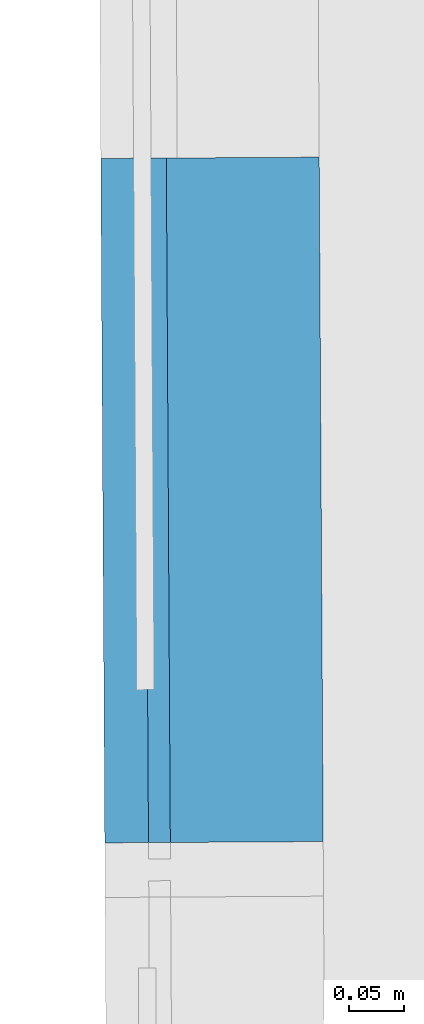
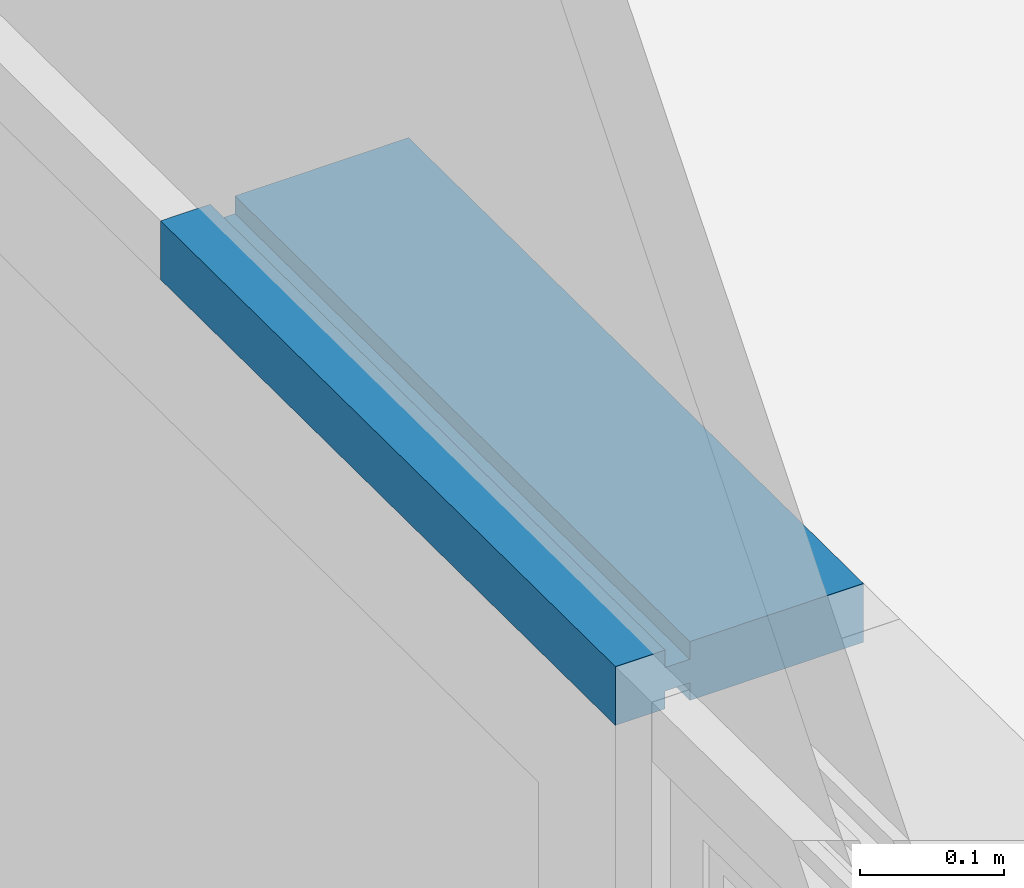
# One storey, part 151 of 196: 1 building element part, 1 element without a shape of its own.
"""IFC2X3 building model written with IfcOpenShell, lengths in metres."""

from ifc_helpers import new_model, entity, si_unit, converted_unit, derived_unit, money_unit, direction, frame, origin_with_axes, place, context, subcontext, project, spatial, faceted_brep, material, type_object, element, aggregate, save


model = new_model("IFC2X3")

# Units and contexts
model_context = context("Model", 3, precision=1e-05, world=origin_with_axes(), true_north=direction((0.0, 1.0)))
body_context = subcontext(model_context, "Body", "Model", "MODEL_VIEW")
ifc_project = project(units=[si_unit("LENGTHUNIT", "METRE"), si_unit("AREAUNIT", "SQUARE_METRE"), si_unit("VOLUMEUNIT", "CUBIC_METRE"), converted_unit("PLANEANGLEUNIT", "DEGREE", entity("IfcPlaneAngleMeasure", 0.0174532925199), si_unit("PLANEANGLEUNIT", "RADIAN"), dimensions=[0, 0, 0, 0, 0, 0, 0]), money_unit("EUR"), converted_unit("TIMEUNIT", "Year", entity("IfcTimeMeasure", 31556926.0), si_unit("TIMEUNIT", "SECOND"), dimensions=[0, 0, 1, 0, 0, 0, 0]), si_unit("MASSUNIT", "GRAM", prefix="KILO"), si_unit("THERMODYNAMICTEMPERATUREUNIT", "DEGREE_CELSIUS"), si_unit("LUMINOUSINTENSITYUNIT", "LUMEN"), si_unit("ENERGYUNIT", "JOULE", prefix="MEGA"), derived_unit("THERMALCONDUCTANCEUNIT", [(si_unit("POWERUNIT", "WATT"), 1), (si_unit("LENGTHUNIT", "METRE"), -1), (si_unit("THERMODYNAMICTEMPERATUREUNIT", "KELVIN"), -1)]), derived_unit("SPECIFICHEATCAPACITYUNIT", [(si_unit("ENERGYUNIT", "JOULE"), 1), (si_unit("MASSUNIT", "GRAM", prefix="KILO"), -1), (si_unit("THERMODYNAMICTEMPERATUREUNIT", "KELVIN"), -1)]), derived_unit("MASSDENSITYUNIT", [(si_unit("MASSUNIT", "GRAM", prefix="KILO"), 1), (si_unit("VOLUMEUNIT", "CUBIC_METRE"), -1)])], contexts=[model_context])

# Site, building, storey
site_placement = place(None, origin_with_axes())
site = spatial("IfcSite", under=ifc_project, at=site_placement, Name="Gelände", CompositionType="ELEMENT")
building_placement = place(site_placement, origin_with_axes())
building = spatial("IfcBuilding", under=site, at=building_placement, Name="Gebäude", CompositionType="ELEMENT")
storey_placement = place(building_placement, frame((0.0, 0.0, -3.0), z_axis=(0.0, 0.0, 1.0), x_axis=(1.0, 0.0, 0.0)))
storey = spatial("IfcBuildingStorey", under=building, at=storey_placement, Name="KELLERGESCHOSS", CompositionType="ELEMENT", Elevation=-3.0)

# Proxy, building element part
building_element_proxy_type = type_object("IfcBuildingElementProxyType", Name="Fassadentyp", PredefinedType="NOTDEFINED")
proxy_placement = place(storey_placement, frame((-34.8766751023, 40.9954775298, 0.421025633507), z_axis=(0.0, 0.0, 1.0), x_axis=(1.0, 0.0, 0.0)))
proxy = element("IfcBuildingElementProxy", 1, at=proxy_placement, inside=storey, type_object=building_element_proxy_type, Name="Fassade-002")
ifc_material = material(Name="53_Metall, Aluminium")
building_element_part_placement = place(proxy_placement, origin_with_axes())
building_element_part = element("IfcBuildingElementPart", 2, at=building_element_part_placement, material=ifc_material, Name="53_Metall, Aluminium", context=body_context, shape_type="Brep", body=[
    faceted_brep([(0.0160524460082, -1.03196241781, 2.44764333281), (0.0160524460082, -1.03196241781, 2.43264333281), (0.15605003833, -1.03114135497, 2.43264333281), (0.15605003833, -1.03114135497, 2.48264333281), (0.0160524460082, -1.03196241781, 2.48264333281), (0.0160524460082, -1.03196241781, 2.46764333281), (-0.00394721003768, -1.0320797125, 2.46764333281), (-0.00394721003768, -1.0320797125, 2.48264333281), (-0.0439465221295, -1.03231430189, 2.48264333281), (-0.0439465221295, -1.03231430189, 2.43264333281), (-0.00394721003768, -1.0320797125, 2.43264333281), (-0.00394721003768, -1.0320797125, 2.44764333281), (0.0123764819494, -0.405180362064, 2.44764333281), (0.0123764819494, -0.405180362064, 2.43264333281), (0.152374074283, -0.404359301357, 2.43264333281), (0.152374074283, -0.404359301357, 2.48264333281), (0.0123764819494, -0.405180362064, 2.48264333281), (0.0123764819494, -0.405180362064, 2.46764333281), (-0.00762317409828, -0.405297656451, 2.46764333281), (-0.00762317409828, -0.405297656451, 2.48264333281), (-0.0476224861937, -0.405532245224, 2.48264333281), (-0.0476224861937, -0.405532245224, 2.43264333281), (-0.00762317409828, -0.405297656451, 2.43264333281), (-0.00762317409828, -0.405297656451, 2.44764333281)], [[[0, 1, 2, 3, 4, 5, 6, 7, 8, 9, 10, 11]], [[1, 0, 12, 13]], [[1, 13, 14, 2]], [[3, 2, 14, 15]], [[4, 3, 15, 16]], [[4, 16, 17, 5]], [[5, 17, 18, 6]], [[7, 6, 18, 19]], [[19, 20, 8, 7]], [[9, 8, 20, 21]], [[22, 10, 9, 21]], [[11, 10, 22, 23]], [[0, 11, 23, 12]], [[23, 22, 21, 20, 19, 18, 17, 16, 15, 14, 13, 12]]]),
])
aggregate(proxy, [building_element_part])

save(model, "model.ifc")
